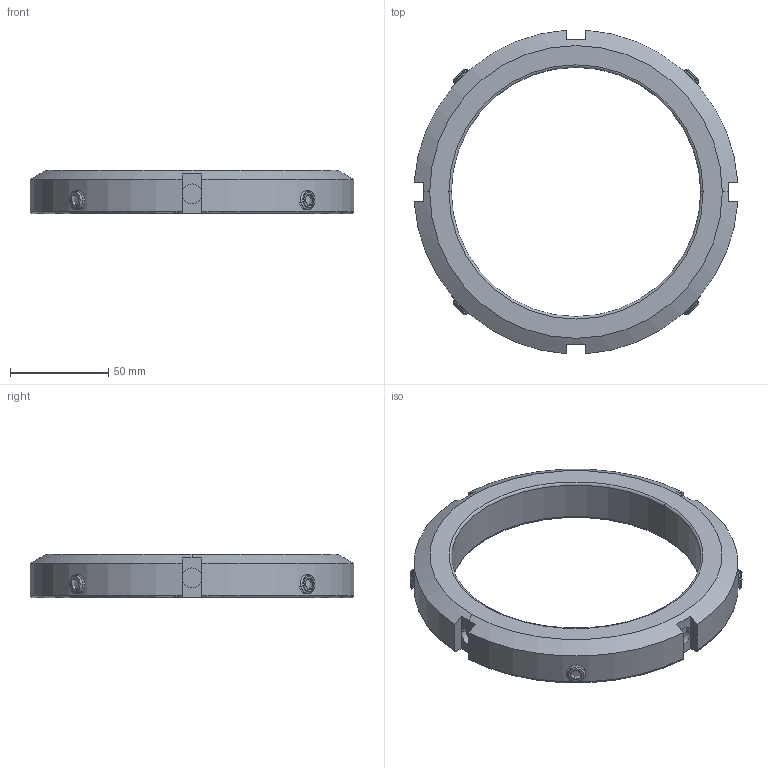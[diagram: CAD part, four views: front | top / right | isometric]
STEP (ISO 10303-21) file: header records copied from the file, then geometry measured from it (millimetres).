
FILE_DESCRIPTION (( 'STEP AP214' ), '1' );
FILE_NAME ('TLNKM 26 PH.STEP', '2011-08-08T00:39:10', ( '' ), ( '' ), 'SwSTEP 2.0', 'SolidWorks 2010', '' );
FILE_SCHEMA (( 'AUTOMOTIVE_DESIGN' ));
Length unit declared in the file: millimetre
Products named in the file (3): TLNKM 26; 92605A157_92605A157; TLNKM 26 PH
Assembly tree (5 placements, depth 2):
  TLNKM 26 PH
    92605A157_92605A157  x4
    TLNKM 26
Bounding box: 164.7 x 164.7 x 22 mm (x, y, z)
Volume: 144012.5 mm3; surface area: 50032.6 mm2
Topology: 5 solids, 5 shells, 326 faces, 860 edges, 552 vertices
Faces by surface type: cylinder 202, plane 62, cone 46, bspline 8, torus 8
Entity records: 6461 total; most frequent: CARTESIAN_POINT 3300, ORIENTED_EDGE 694, DIRECTION 607, EDGE_CURVE 347, AXIS2_PLACEMENT_3D 241, VERTEX_POINT 222, EDGE_LOOP 141, FACE_OUTER_BOUND 134
